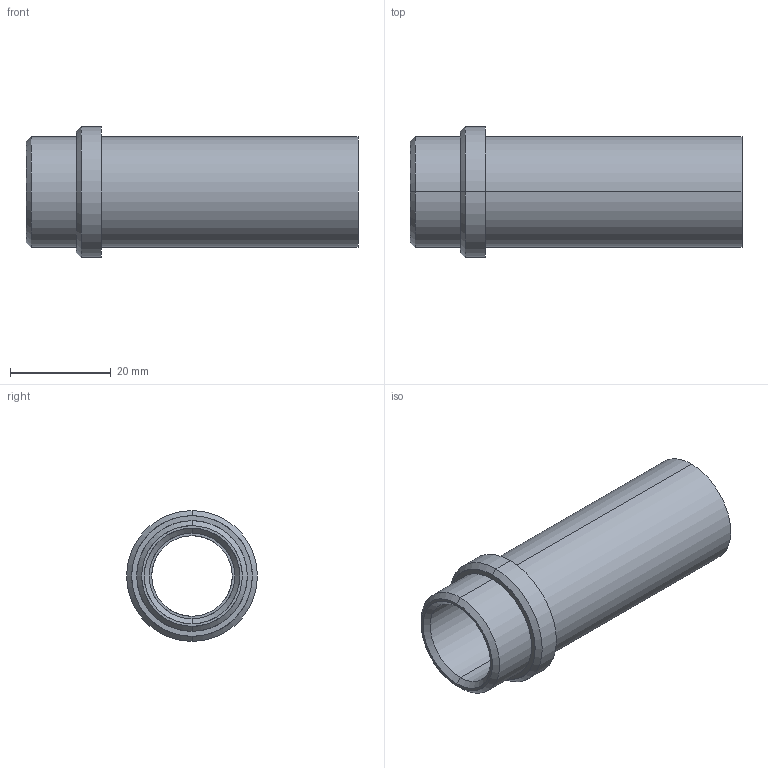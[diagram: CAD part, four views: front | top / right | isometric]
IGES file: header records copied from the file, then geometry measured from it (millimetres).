
Start section: START RECORD GO HERE.
Global section: file name: 358-16x66.igs; native system: DASSAULT SYSTEMES CATIA V5 R20 - www.3ds.com; preprocessor: CATIA Version 5 Release 20 ; author: Utente; organization: NB04-ASUS; date: 20210408.155406; units: millimetre
Bounding box: 66 x 26 x 26 mm (x, y, z)
Surface area: 8546.2 mm2 (no closed solid volume)
Topology: 0 solids, 0 shells, 23 faces, 148 edges, 148 vertices
Faces by surface type: revolution 18, plane 5
